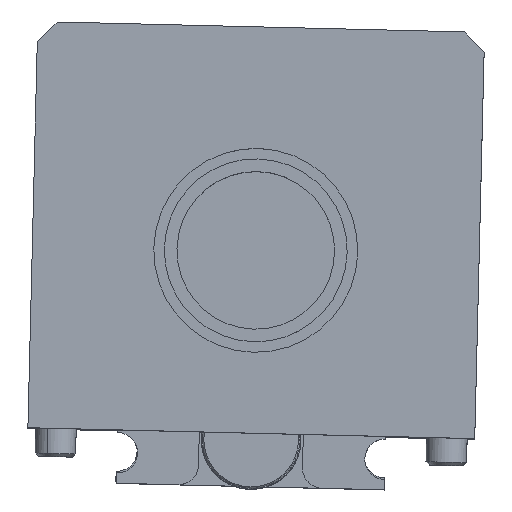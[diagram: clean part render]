
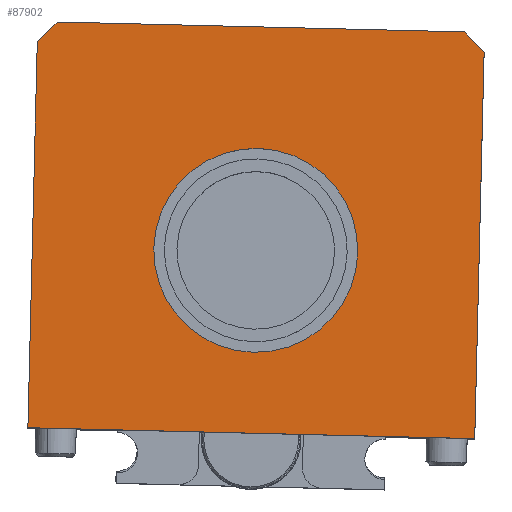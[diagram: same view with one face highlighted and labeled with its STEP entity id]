
A CAD part, top view. The second image highlights one B-rep face of the part: STEP entity #87902.
In plain terms, the highlighted planar face has unit normal (0, 0, 1).
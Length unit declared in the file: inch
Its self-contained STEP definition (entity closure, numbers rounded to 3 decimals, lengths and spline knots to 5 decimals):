
#610 = DIRECTION ( 'NONE',  ( 0., 0., 1. ) ) ;
#1358 = CARTESIAN_POINT ( 'NONE',  ( -8.80383, -1.37517, 3.19981 ) ) ;
#4016 = LINE ( 'NONE', #103855, #24535 ) ;
#4532 = CARTESIAN_POINT ( 'NONE',  ( -7.45975, -0.09503, 3.19981 ) ) ;
#4892 = VERTEX_POINT ( 'NONE', #4532 ) ;
#5943 = VECTOR ( 'NONE', #16327, 39.37008 ) ;
#7718 = ORIENTED_EDGE ( 'NONE', *, *, #99228, .T. ) ;
#9236 = VECTOR ( 'NONE', #123478, 39.37008 ) ;
#9271 = FACE_BOUND ( 'NONE', #113430, .T. ) ;
#10930 = ORIENTED_EDGE ( 'NONE', *, *, #15101, .T. ) ;
#11303 = LINE ( 'NONE', #99202, #41310 ) ;
#12095 = DIRECTION ( 'NONE',  ( 1., -0.024, 0. ) ) ;
#15101 = EDGE_CURVE ( 'NONE', #81431, #29473, #4016, .T. ) ;
#15145 = DIRECTION ( 'NONE',  ( 0., 0., 1. ) ) ;
#16327 = DIRECTION ( 'NONE',  ( -1., 0.024, 0. ) ) ;
#18866 = CARTESIAN_POINT ( 'NONE',  ( -7.58471, -0.09199, 3.19981 ) ) ;
#19070 = LINE ( 'NONE', #18866, #26948 ) ;
#20116 = CARTESIAN_POINT ( 'NONE',  ( -6.87093, -1.48479, 3.19981 ) ) ;
#20543 = VERTEX_POINT ( 'NONE', #110715 ) ;
#24535 = VECTOR ( 'NONE', #73332, 39.37008 ) ;
#26948 = VECTOR ( 'NONE', #39166, 39.37008 ) ;
#27787 = EDGE_CURVE ( 'NONE', #89067, #29133, #86367, .T. ) ;
#28666 = EDGE_CURVE ( 'NONE', #29133, #89067, #33942, .T. ) ;
#29133 = VERTEX_POINT ( 'NONE', #44681 ) ;
#29462 = DIRECTION ( 'NONE',  ( 1., -0.024, 0. ) ) ;
#29473 = VERTEX_POINT ( 'NONE', #107927 ) ;
#32527 = EDGE_CURVE ( 'NONE', #29473, #63788, #11303, .T. ) ;
#33126 = CARTESIAN_POINT ( 'NONE',  ( -7.58776, -0.21695, 3.19981 ) ) ;
#33942 = CIRCLE ( 'NONE', #124044, 0.6275 ) ;
#36013 = CARTESIAN_POINT ( 'NONE',  ( -4.89642, -2.65823, 3.19981 ) ) ;
#39166 = DIRECTION ( 'NONE',  ( -0.024, -1., 0. ) ) ;
#41310 = VECTOR ( 'NONE', #79698, 39.37008 ) ;
#42463 = FACE_OUTER_BOUND ( 'NONE', #75000, .T. ) ;
#44681 = CARTESIAN_POINT ( 'NONE',  ( -5.6163, -1.51536, 3.19981 ) ) ;
#46855 = ORIENTED_EDGE ( 'NONE', *, *, #32527, .T. ) ;
#50654 = EDGE_CURVE ( 'NONE', #63788, #4892, #116776, .T. ) ;
#50990 = CARTESIAN_POINT ( 'NONE',  ( -6.24361, -1.50007, 3.19981 ) ) ;
#63788 = VERTEX_POINT ( 'NONE', #79046 ) ;
#64498 = DIRECTION ( 'NONE',  ( 1., -0.024, 0. ) ) ;
#69339 = VERTEX_POINT ( 'NONE', #33126 ) ;
#71249 = AXIS2_PLACEMENT_3D ( 'NONE', #115430, #124738, #64498 ) ;
#73332 = DIRECTION ( 'NONE',  ( 0.024, 1., 0. ) ) ;
#75000 = EDGE_LOOP ( 'NONE', ( #10930, #46855, #95397, #110411, #7718, #83235 ) ) ;
#75719 = CARTESIAN_POINT ( 'NONE',  ( -7.64561, -2.59125, 3.19981 ) ) ;
#79046 = CARTESIAN_POINT ( 'NONE',  ( -4.96049, -0.15593, 3.19981 ) ) ;
#79698 = DIRECTION ( 'NONE',  ( -0.69, 0.724, 0. ) ) ;
#81431 = VERTEX_POINT ( 'NONE', #36013 ) ;
#83235 = ORIENTED_EDGE ( 'NONE', *, *, #124924, .T. ) ;
#85875 = DIRECTION ( 'NONE',  ( 1., -0.024, 0. ) ) ;
#86367 = CIRCLE ( 'NONE', #71249, 0.6275 ) ;
#87902 = ADVANCED_FACE ( 'NONE', ( #9271, #42463 ), #126255, .T. ) ;
#88976 = AXIS2_PLACEMENT_3D ( 'NONE', #75719, #15145, #85875 ) ;
#89067 = VERTEX_POINT ( 'NONE', #20116 ) ;
#90064 = VECTOR ( 'NONE', #29462, 39.37008 ) ;
#91214 = ORIENTED_EDGE ( 'NONE', *, *, #28666, .F. ) ;
#95397 = ORIENTED_EDGE ( 'NONE', *, *, #50654, .T. ) ;
#96408 = LINE ( 'NONE', #100182, #90064 ) ;
#98361 = ORIENTED_EDGE ( 'NONE', *, *, #27787, .F. ) ;
#99202 = CARTESIAN_POINT ( 'NONE',  ( -5.02145, -0.09192, 3.19981 ) ) ;
#99228 = EDGE_CURVE ( 'NONE', #69339, #20543, #19070, .T. ) ;
#100182 = CARTESIAN_POINT ( 'NONE',  ( -7.64561, -2.59125, 3.19981 ) ) ;
#101366 = EDGE_CURVE ( 'NONE', #4892, #69339, #127949, .T. ) ;
#103855 = CARTESIAN_POINT ( 'NONE',  ( -4.83553, -0.15897, 3.19981 ) ) ;
#105702 = CARTESIAN_POINT ( 'NONE',  ( -7.58471, -0.09199, 3.19981 ) ) ;
#107927 = CARTESIAN_POINT ( 'NONE',  ( -4.83857, -0.28393, 3.19981 ) ) ;
#110411 = ORIENTED_EDGE ( 'NONE', *, *, #101366, .T. ) ;
#110715 = CARTESIAN_POINT ( 'NONE',  ( -7.64561, -2.59125, 3.19981 ) ) ;
#113430 = EDGE_LOOP ( 'NONE', ( #91214, #98361 ) ) ;
#115430 = CARTESIAN_POINT ( 'NONE',  ( -6.24361, -1.50007, 3.19981 ) ) ;
#116776 = LINE ( 'NONE', #105702, #5943 ) ;
#123478 = DIRECTION ( 'NONE',  ( -0.724, -0.69, 0. ) ) ;
#124044 = AXIS2_PLACEMENT_3D ( 'NONE', #50990, #610, #12095 ) ;
#124738 = DIRECTION ( 'NONE',  ( 0., 0., 1. ) ) ;
#124924 = EDGE_CURVE ( 'NONE', #20543, #81431, #96408, .T. ) ;
#126255 = PLANE ( 'NONE',  #88976 ) ;
#127949 = LINE ( 'NONE', #1358, #9236 ) ;
